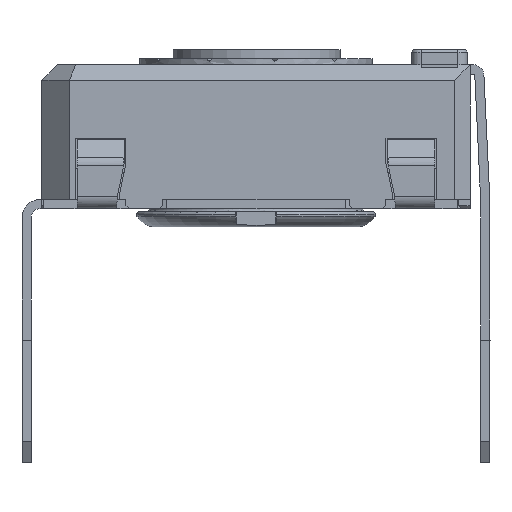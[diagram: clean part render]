
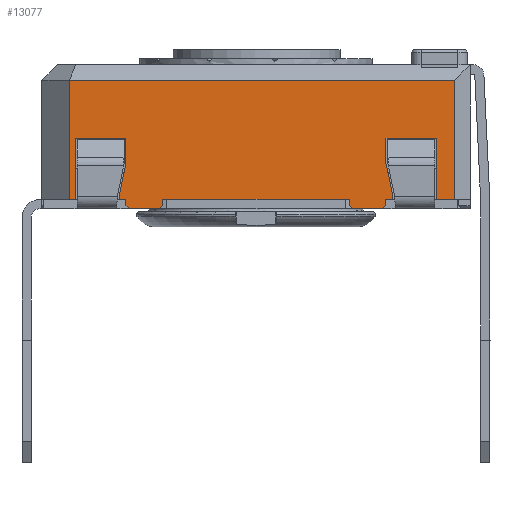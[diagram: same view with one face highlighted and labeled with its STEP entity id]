
A CAD part, left-side view. The second image highlights one B-rep face of the part: STEP entity #13077.
In plain terms, the highlighted planar face has unit normal (-1, 0, 0).
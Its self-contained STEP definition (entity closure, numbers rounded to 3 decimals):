
#1019=FACE_OUTER_BOUND('',#1701,.T.);
#1701=EDGE_LOOP('',(#10433,#10434,#10435,#10436,#10437,#10438,#10439,#10440,
#10441,#10442,#10443,#10444,#10445,#10446,#10447,#10448,#10449,#10450,#10451,
#10452,#10453,#10454,#10455,#10456,#10457,#10458,#10459,#10460));
#2705=LINE('',#20023,#4208);
#2711=LINE('',#20035,#4214);
#2714=LINE('',#20042,#4217);
#2719=LINE('',#20051,#4222);
#2739=LINE('',#20092,#4242);
#2753=LINE('',#20118,#4256);
#2757=LINE('',#20125,#4260);
#2772=LINE('',#20154,#4275);
#2775=LINE('',#20160,#4278);
#2780=LINE('',#20170,#4283);
#2783=LINE('',#20176,#4286);
#2786=LINE('',#20182,#4289);
#2804=LINE('',#20217,#4307);
#2816=LINE('',#20239,#4319);
#2819=LINE('',#20245,#4322);
#2856=LINE('',#20379,#4359);
#2864=LINE('',#20393,#4367);
#2873=LINE('',#20411,#4376);
#2878=LINE('',#20421,#4381);
#2880=LINE('',#20424,#4383);
#3005=LINE('',#20735,#4508);
#3007=LINE('',#20740,#4510);
#3010=LINE('',#20744,#4513);
#3012=LINE('',#20748,#4515);
#3015=LINE('',#20756,#4518);
#3016=LINE('',#20758,#4519);
#3017=LINE('',#20759,#4520);
#3018=LINE('',#20760,#4521);
#4208=VECTOR('',#16022,10.);
#4214=VECTOR('',#16030,10.);
#4217=VECTOR('',#16035,10.);
#4222=VECTOR('',#16042,10.);
#4242=VECTOR('',#16076,10.);
#4256=VECTOR('',#16090,10.);
#4260=VECTOR('',#16094,10.);
#4275=VECTOR('',#16121,10.);
#4278=VECTOR('',#16126,10.);
#4283=VECTOR('',#16133,10.);
#4286=VECTOR('',#16138,10.);
#4289=VECTOR('',#16143,10.);
#4307=VECTOR('',#16163,10.);
#4319=VECTOR('',#16177,10.);
#4322=VECTOR('',#16182,10.);
#4359=VECTOR('',#16263,10.);
#4367=VECTOR('',#16273,10.);
#4376=VECTOR('',#16284,10.);
#4381=VECTOR('',#16291,10.);
#4383=VECTOR('',#16295,10.);
#4508=VECTOR('',#16586,10.);
#4510=VECTOR('',#16590,10.);
#4513=VECTOR('',#16595,10.);
#4515=VECTOR('',#16601,10.);
#4518=VECTOR('',#16612,10.);
#4519=VECTOR('',#16613,10.);
#4520=VECTOR('',#16614,10.);
#4521=VECTOR('',#16615,10.);
#5618=VERTEX_POINT('',#20020);
#5619=VERTEX_POINT('',#20022);
#5623=VERTEX_POINT('',#20032);
#5625=VERTEX_POINT('',#20038);
#5627=VERTEX_POINT('',#20041);
#5630=VERTEX_POINT('',#20049);
#5655=VERTEX_POINT('',#20115);
#5656=VERTEX_POINT('',#20117);
#5658=VERTEX_POINT('',#20122);
#5659=VERTEX_POINT('',#20124);
#5666=VERTEX_POINT('',#20151);
#5668=VERTEX_POINT('',#20157);
#5672=VERTEX_POINT('',#20167);
#5674=VERTEX_POINT('',#20173);
#5677=VERTEX_POINT('',#20180);
#5693=VERTEX_POINT('',#20215);
#5702=VERTEX_POINT('',#20237);
#5704=VERTEX_POINT('',#20243);
#5731=VERTEX_POINT('',#20377);
#5736=VERTEX_POINT('',#20391);
#5743=VERTEX_POINT('',#20408);
#5747=VERTEX_POINT('',#20418);
#5821=VERTEX_POINT('',#20732);
#5822=VERTEX_POINT('',#20734);
#5823=VERTEX_POINT('',#20738);
#5824=VERTEX_POINT('',#20739);
#5825=VERTEX_POINT('',#20755);
#5826=VERTEX_POINT('',#20757);
#7142=EDGE_CURVE('',#5619,#5618,#2705,.T.);
#7148=EDGE_CURVE('',#5618,#5623,#2711,.T.);
#7151=EDGE_CURVE('',#5627,#5625,#2714,.T.);
#7156=EDGE_CURVE('',#5630,#5625,#2719,.T.);
#7176=EDGE_CURVE('',#5623,#5627,#2739,.T.);
#7190=EDGE_CURVE('',#5656,#5655,#2753,.T.);
#7194=EDGE_CURVE('',#5659,#5658,#2757,.T.);
#7210=EDGE_CURVE('',#5655,#5666,#2772,.T.);
#7213=EDGE_CURVE('',#5666,#5668,#2775,.T.);
#7218=EDGE_CURVE('',#5668,#5672,#2780,.T.);
#7221=EDGE_CURVE('',#5672,#5674,#2783,.T.);
#7224=EDGE_CURVE('',#5674,#5677,#2786,.T.);
#7242=EDGE_CURVE('',#5677,#5693,#2804,.T.);
#7254=EDGE_CURVE('',#5702,#5693,#2816,.T.);
#7257=EDGE_CURVE('',#5704,#5702,#2819,.T.);
#7306=EDGE_CURVE('',#5731,#5704,#2856,.T.);
#7314=EDGE_CURVE('',#5731,#5736,#2864,.T.);
#7323=EDGE_CURVE('',#5736,#5743,#2873,.T.);
#7328=EDGE_CURVE('',#5743,#5747,#2878,.T.);
#7330=EDGE_CURVE('',#5747,#5619,#2880,.T.);
#7471=EDGE_CURVE('',#5821,#5822,#3005,.T.);
#7473=EDGE_CURVE('',#5823,#5824,#3007,.T.);
#7476=EDGE_CURVE('',#5656,#5821,#3010,.T.);
#7478=EDGE_CURVE('',#5658,#5824,#3012,.T.);
#7481=EDGE_CURVE('',#5630,#5825,#3015,.T.);
#7482=EDGE_CURVE('',#5826,#5825,#3016,.T.);
#7483=EDGE_CURVE('',#5659,#5826,#3017,.T.);
#7484=EDGE_CURVE('',#5823,#5822,#3018,.T.);
#10433=ORIENTED_EDGE('',*,*,#7148,.T.);
#10434=ORIENTED_EDGE('',*,*,#7176,.T.);
#10435=ORIENTED_EDGE('',*,*,#7151,.T.);
#10436=ORIENTED_EDGE('',*,*,#7156,.F.);
#10437=ORIENTED_EDGE('',*,*,#7481,.T.);
#10438=ORIENTED_EDGE('',*,*,#7482,.F.);
#10439=ORIENTED_EDGE('',*,*,#7483,.F.);
#10440=ORIENTED_EDGE('',*,*,#7194,.T.);
#10441=ORIENTED_EDGE('',*,*,#7478,.T.);
#10442=ORIENTED_EDGE('',*,*,#7473,.F.);
#10443=ORIENTED_EDGE('',*,*,#7484,.T.);
#10444=ORIENTED_EDGE('',*,*,#7471,.F.);
#10445=ORIENTED_EDGE('',*,*,#7476,.F.);
#10446=ORIENTED_EDGE('',*,*,#7190,.T.);
#10447=ORIENTED_EDGE('',*,*,#7210,.T.);
#10448=ORIENTED_EDGE('',*,*,#7213,.T.);
#10449=ORIENTED_EDGE('',*,*,#7218,.T.);
#10450=ORIENTED_EDGE('',*,*,#7221,.T.);
#10451=ORIENTED_EDGE('',*,*,#7224,.T.);
#10452=ORIENTED_EDGE('',*,*,#7242,.T.);
#10453=ORIENTED_EDGE('',*,*,#7254,.F.);
#10454=ORIENTED_EDGE('',*,*,#7257,.F.);
#10455=ORIENTED_EDGE('',*,*,#7306,.F.);
#10456=ORIENTED_EDGE('',*,*,#7314,.T.);
#10457=ORIENTED_EDGE('',*,*,#7323,.T.);
#10458=ORIENTED_EDGE('',*,*,#7328,.T.);
#10459=ORIENTED_EDGE('',*,*,#7330,.T.);
#10460=ORIENTED_EDGE('',*,*,#7142,.T.);
#12254=PLANE('',#13956);
#13077=ADVANCED_FACE('',(#1019),#12254,.T.);
#13956=AXIS2_PLACEMENT_3D('',#20754,#16610,#16611);
#16022=DIRECTION('',(0.,0.208,-0.978));
#16030=DIRECTION('',(0.,0.,-1.));
#16035=DIRECTION('',(0.,0.,-1.));
#16042=DIRECTION('',(0.,0.707,0.707));
#16076=DIRECTION('',(0.,-1.,0.));
#16090=DIRECTION('',(0.,-1.,0.));
#16094=DIRECTION('',(0.,-1.,0.));
#16121=DIRECTION('',(0.,0.,1.));
#16126=DIRECTION('',(0.,0.208,0.978));
#16133=DIRECTION('',(0.,0.,1.));
#16138=DIRECTION('',(0.,-1.,0.));
#16143=DIRECTION('',(0.,0.,-1.));
#16163=DIRECTION('',(0.,-1.,0.));
#16177=DIRECTION('',(0.,0.,-1.));
#16182=DIRECTION('',(0.,-1.,0.));
#16263=DIRECTION('',(0.,0.,1.));
#16273=DIRECTION('',(0.,-1.,0.));
#16284=DIRECTION('',(0.,0.,1.));
#16291=DIRECTION('',(0.,-1.,0.));
#16295=DIRECTION('',(0.,0.,-1.));
#16586=DIRECTION('',(0.,0.707,-0.707));
#16590=DIRECTION('',(0.,0.707,0.707));
#16595=DIRECTION('',(0.,0.,-1.));
#16601=DIRECTION('',(0.,0.,-1.));
#16610=DIRECTION('center_axis',(-1.,0.,0.));
#16611=DIRECTION('ref_axis',(0.,0.,1.));
#16612=DIRECTION('',(0.,-1.,0.));
#16613=DIRECTION('',(0.,0.707,-0.707));
#16614=DIRECTION('',(0.,0.,-1.));
#16615=DIRECTION('',(0.,-1.,0.));
#20020=CARTESIAN_POINT('',(-14.467,1.552,0.235));
#20022=CARTESIAN_POINT('',(-14.467,1.352,1.176));
#20023=CARTESIAN_POINT('',(-14.467,1.228,1.757));
#20032=CARTESIAN_POINT('',(-14.467,1.552,0.));
#20035=CARTESIAN_POINT('',(-14.467,1.552,0.));
#20038=CARTESIAN_POINT('',(-14.467,1.352,-0.2));
#20041=CARTESIAN_POINT('',(-14.467,1.352,0.));
#20042=CARTESIAN_POINT('',(-14.467,1.352,0.));
#20049=CARTESIAN_POINT('',(-14.467,1.252,-0.3));
#20051=CARTESIAN_POINT('',(-14.467,-1.436,-2.988));
#20092=CARTESIAN_POINT('',(-14.467,4.102,0.));
#20115=CARTESIAN_POINT('',(-14.467,-7.348,0.));
#20117=CARTESIAN_POINT('',(-14.467,-7.148,0.));
#20118=CARTESIAN_POINT('',(-14.467,4.102,0.));
#20122=CARTESIAN_POINT('',(-14.467,-5.948,0.));
#20124=CARTESIAN_POINT('',(-14.467,0.152,0.));
#20125=CARTESIAN_POINT('',(-14.467,4.102,0.));
#20151=CARTESIAN_POINT('',(-14.467,-7.348,0.235));
#20154=CARTESIAN_POINT('',(-14.467,-7.348,0.118));
#20157=CARTESIAN_POINT('',(-14.467,-7.148,1.176));
#20160=CARTESIAN_POINT('',(-14.467,-7.453,-0.254));
#20167=CARTESIAN_POINT('',(-14.467,-7.148,2.));
#20170=CARTESIAN_POINT('',(-14.467,-7.148,0.588));
#20173=CARTESIAN_POINT('',(-14.467,-8.798,2.));
#20176=CARTESIAN_POINT('',(-14.467,-8.523,2.));
#20180=CARTESIAN_POINT('',(-14.467,-8.798,0.));
#20182=CARTESIAN_POINT('',(-14.467,-8.798,0.));
#20215=CARTESIAN_POINT('',(-14.467,-9.398,0.));
#20217=CARTESIAN_POINT('',(-14.467,-9.595,0.));
#20237=CARTESIAN_POINT('',(-14.467,-9.398,3.9));
#20239=CARTESIAN_POINT('',(-14.467,-9.398,0.));
#20243=CARTESIAN_POINT('',(-14.467,3.202,3.9));
#20245=CARTESIAN_POINT('',(-14.467,-6.398,3.9));
#20377=CARTESIAN_POINT('',(-14.467,3.202,0.));
#20379=CARTESIAN_POINT('',(-14.467,3.202,0.));
#20391=CARTESIAN_POINT('',(-14.467,3.002,0.));
#20393=CARTESIAN_POINT('',(-14.467,-2.985,0.));
#20408=CARTESIAN_POINT('',(-14.467,3.002,2.));
#20411=CARTESIAN_POINT('',(-14.467,3.002,0.));
#20418=CARTESIAN_POINT('',(-14.467,1.352,2.));
#20421=CARTESIAN_POINT('',(-14.467,-3.448,2.));
#20424=CARTESIAN_POINT('',(-14.467,1.352,1.));
#20732=CARTESIAN_POINT('',(-14.467,-7.148,-0.2));
#20734=CARTESIAN_POINT('',(-14.467,-7.048,-0.3));
#20735=CARTESIAN_POINT('',(-14.467,-7.861,0.513));
#20738=CARTESIAN_POINT('',(-14.467,-6.048,-0.3));
#20739=CARTESIAN_POINT('',(-14.467,-5.948,-0.2));
#20740=CARTESIAN_POINT('',(-14.467,-6.911,-1.163));
#20744=CARTESIAN_POINT('',(-14.467,-7.148,0.));
#20748=CARTESIAN_POINT('',(-14.467,-5.948,0.));
#20754=CARTESIAN_POINT('Origin',(-14.467,-9.898,0.));
#20755=CARTESIAN_POINT('',(-14.467,0.252,-0.3));
#20756=CARTESIAN_POINT('',(-14.467,0.152,-0.3));
#20757=CARTESIAN_POINT('',(-14.467,0.152,-0.2));
#20758=CARTESIAN_POINT('',(-14.467,-2.386,2.338));
#20759=CARTESIAN_POINT('',(-14.467,0.152,0.));
#20760=CARTESIAN_POINT('',(-14.467,-7.148,-0.3));
